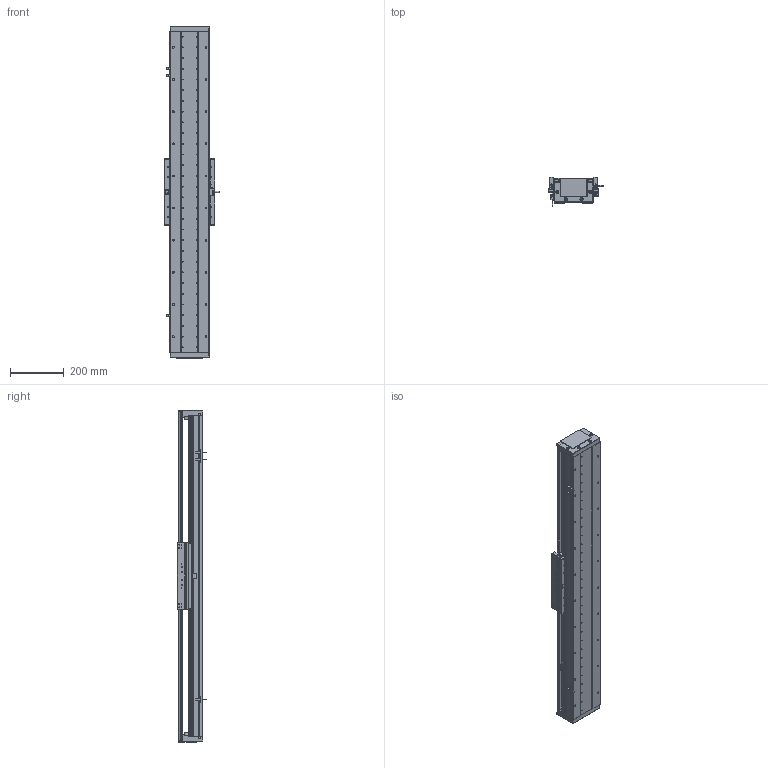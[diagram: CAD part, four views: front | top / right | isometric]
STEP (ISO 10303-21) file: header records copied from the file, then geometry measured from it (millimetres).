
FILE_DESCRIPTION (( 'STEP AP203' ), '1' );
FILE_NAME ('DA-C145-C3-T900-C010-0.2 眻盄萇儂.STEP', '2025-08-14T01:19:40', ( '' ), ( '' ), 'SwSTEP 2.0', 'SolidWorks 2019', '' );
FILE_SCHEMA (( 'CONFIG_CONTROL_DESIGN' ));
Length unit declared in the file: millimetre
Products named in the file (29): CU145-W-00 珨极趙賑雄怢啣; 复件 纯铜油杯 6x6mm^CU145-W 滚珠滑台; 葩璃 DA145-C3-DP-B-00 菜えB^CU145-W 幗紩賑怢; 葩璃 鞠褒情蹟譫 M3^DA-C145-C3-T-C010-0.2; IU-CU145-L 菁釱絳寢; 葩璃 CKMA01-W060-TRL^DA-C145-C3-T-C010-0.2; CU145-W 幗紩賑怢; DA-C145-C3-T900-C010-0.2 眻盄萇儂; IU-CU145-L-00 菁釱(L1200); 葩璃 XD-U-02L 棠掑喜^DA-C145-C3-T-C010-0.2; 葩璃 CKM03-W060-C1C2-TP-0.2^DA-C145-C3-T-C010-0.2; 复件 DA95-HK-GT-00 滑块钢轨^CU145-W-00 一体化滑动台板; 葩璃 DA95-HXJ-00 遣喳砎蝶^DA-C145-C3-T-C010-0.2; 66245-CU145-HT-W-00 賑雄怢啣(3D芞祧)(00); 复件 DA145-C3-YB-A-00 压板A^CU145-W 滚珠滑台; 葩璃 DMA-010-0.2 黍杅芛^DA-C145-C3-T-C010-0.2; 复件 DA95-MFP-01 密封片^CU145-W 滚珠滑台; 葩璃 DA145-C3-DP-A-00 菜えA^CU145-W 幗紩賑怢; 复件 内六角平端紧定螺钉 GB.T77-2000 M5×10^CU145-W 滚珠滑台; 复件 DA145-C3-DK-00 挡块^CU145-W 滚珠滑台; 复件 DA145-C3-YB-B-00 压板B^CU145-W 滚珠滑台; 葩璃 DA95-GT-T-00^IU-CU145-L 菁釱絳寢; TAY01-M8; 葩璃 PM-T45^DA-C145-C3-T-C010-0.2; 复件 DA95-DB-00  挡板^CU145-W 滚珠滑台; 葩璃 DA145-DG-H-N-00 傷裔^DA-C145-C3-T-C010-0.2; 葩璃 DA145-T-003-00 裔啣^DA-C145-C3-T-C010-0.2; 复件 半圆头内六角螺钉 M3×6^CU145-W 滚珠滑台; 复件 DA145-GYP-00 光电感应片^DA-C145-C3-T-C010-0.2
Assembly tree (98 placements, depth 4):
  DA-C145-C3-T900-C010-0.2 眻盄萇儂
    IU-CU145-L 菁釱絳寢
      IU-CU145-L-00 菁釱(L1200)
      葩璃 DA95-GT-T-00^IU-CU145-L 菁釱絳寢  x4
    CU145-W 幗紩賑怢
      CU145-W-00 珨极趙賑雄怢啣
        66245-CU145-HT-W-00 賑雄怢啣(3D芞祧)(00)
        复件 DA95-HK-GT-00 滑块钢轨^CU145-W-00 一体化滑动台板  x8
      复件 DA95-MFP-01 密封片^CU145-W 滚珠滑台  x8
      复件 DA95-DB-00  挡板^CU145-W 滚珠滑台  x8
      复件 内六角平端紧定螺钉 GB.T77-2000 M5×10^CU145-W 滚珠滑台  x4
      复件 纯铜油杯 6x6mm^CU145-W 滚珠滑台  x4
      复件 半圆头内六角螺钉 M3×6^CU145-W 滚珠滑台  x16
      复件 DA145-C3-DK-00 挡块^CU145-W 滚珠滑台  x4
      葩璃 DA145-C3-DP-B-00 菜えB^CU145-W 幗紩賑怢  x2
      复件 DA145-C3-YB-B-00 压板B^CU145-W 滚珠滑台  x2
      葩璃 DA145-C3-DP-A-00 菜えA^CU145-W 幗紩賑怢  x3
      复件 DA145-C3-YB-A-00 压板A^CU145-W 滚珠滑台  x3
      TAY01-M8  x4
    葩璃 CKMA01-W060-TRL^DA-C145-C3-T-C010-0.2
    葩璃 PM-T45^DA-C145-C3-T-C010-0.2  x3
    葩璃 XD-U-02L 棠掑喜^DA-C145-C3-T-C010-0.2
    葩璃 DA145-DG-H-N-00 傷裔^DA-C145-C3-T-C010-0.2  x2
    葩璃 DA145-T-003-00 裔啣^DA-C145-C3-T-C010-0.2
    葩璃 DA95-HXJ-00 遣喳砎蝶^DA-C145-C3-T-C010-0.2  x4
    复件 DA145-GYP-00 光电感应片^DA-C145-C3-T-C010-0.2
    葩璃 DMA-010-0.2 黍杅芛^DA-C145-C3-T-C010-0.2
    葩璃 CKM03-W060-C1C2-TP-0.2^DA-C145-C3-T-C010-0.2
    葩璃 鞠褒情蹟譫 M3^DA-C145-C3-T-C010-0.2  x8
Bounding box: 203.5 x 108.45 x 1240 mm (x, y, z)
Volume: 7818188.3 mm3; surface area: 2318910.4 mm2
Topology: 95 solids, 127 shells, 4020 faces, 10797 edges, 6676 vertices
Faces by surface type: cylinder 1727, plane 1577, cone 626, torus 86, sphere 4
Entity records: 94823 total; most frequent: CARTESIAN_POINT 24432, DIRECTION 13739, ORIENTED_EDGE 13592, EDGE_CURVE 6796, AXIS2_PLACEMENT_3D 5116, VERTEX_POINT 4365, VECTOR 3507, LINE 3507
